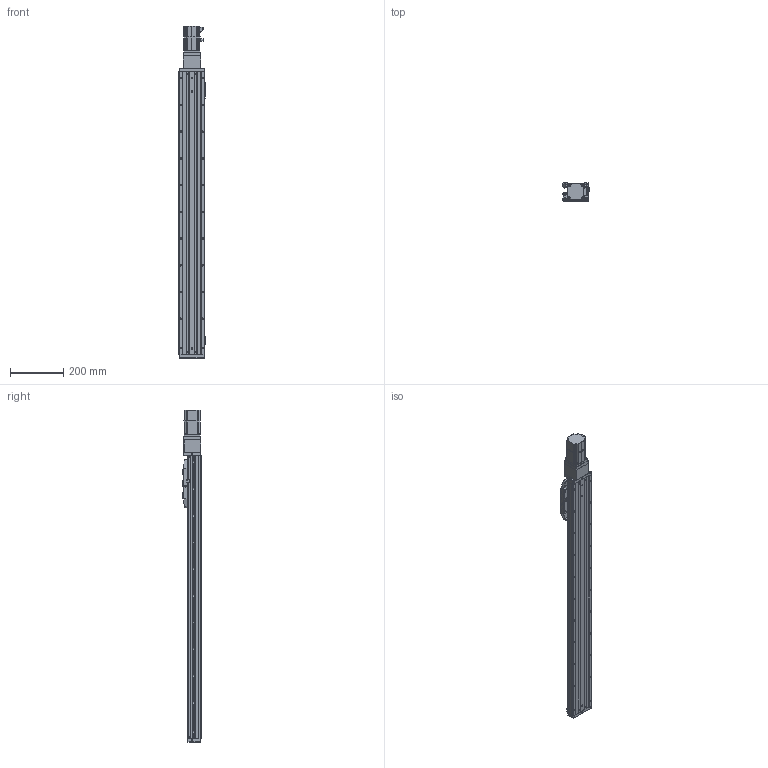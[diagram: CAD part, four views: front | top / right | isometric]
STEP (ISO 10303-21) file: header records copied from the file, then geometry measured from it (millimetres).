
FILE_DESCRIPTION (( 'STEP AP203' ), '1' );
FILE_NAME ('CTHA100-850-BC-M20-C4L.step', '2022-07-06T08:54:01', ( '微软用户' ), ( '微软中国' ), 'SwSTEP 2.0', 'SolidWorks 2020', '' );
FILE_SCHEMA (( 'CONFIG_CONTROL_DESIGN' ));
Length unit declared in the file: millimetre
Products named in the file (20): CTHA86-006-1_CTHA86-006-2; KTHA100-004; GBT 70.1-M3℅6; GBT 70.3-M3℅6; KTHA100-005; GBT70.1 M5℅16; CTHA100-002; GB¨uT 70.2-M3¡Á5_M3¡Á6; CTHA60-016; CTHA100-031; EE_SX911P_R; _X2_4E0983F1_X0_200W_1; CTHA86-030; CTHA60-017; CTHA86-013; CTHA100-850-BC-M20-C4L; CTHA60-021; CTHA86-027; KTHA100-001_1060; GBT77-2000 M3×3
Assembly tree (63 placements, depth 2):
  CTHA100-850-BC-M20-C4L
    KTHA100-001_1060
    KTHA100-004
    KTHA100-005
    GB¨uT 70.2-M3¡Á5_M3¡Á6  x10
    EE_SX911P_R  x3
    CTHA60-017  x3
    CTHA60-021  x2
    GBT77-2000 M3×3  x6
    GBT 70.1-M3℅6  x6
    GBT70.1 M5℅16  x14
    CTHA60-016  x2
    _X2_4E0983F1_X0_200W_1
    CTHA86-013
    CTHA86-027
    CTHA86-006-1_CTHA86-006-2
    GBT 70.3-M3℅6  x6
    CTHA100-002
    CTHA100-031
    CTHA86-030  x2
Bounding box: 98.82 x 68 x 1242.5 mm (x, y, z)
Volume: 4413748.7 mm3; surface area: 749448.9 mm2
Topology: 65 solids, 65 shells, 2699 faces, 6494 edges, 4012 vertices
Faces by surface type: plane 1411, cylinder 703, cone 380, torus 112, bspline 69, sphere 24
Entity records: 47580 total; most frequent: CARTESIAN_POINT 8898, DIRECTION 7481, ORIENTED_EDGE 7260, EDGE_CURVE 3630, AXIS2_PLACEMENT_3D 2531, LINE 2419, VECTOR 2419, VERTEX_POINT 2290
